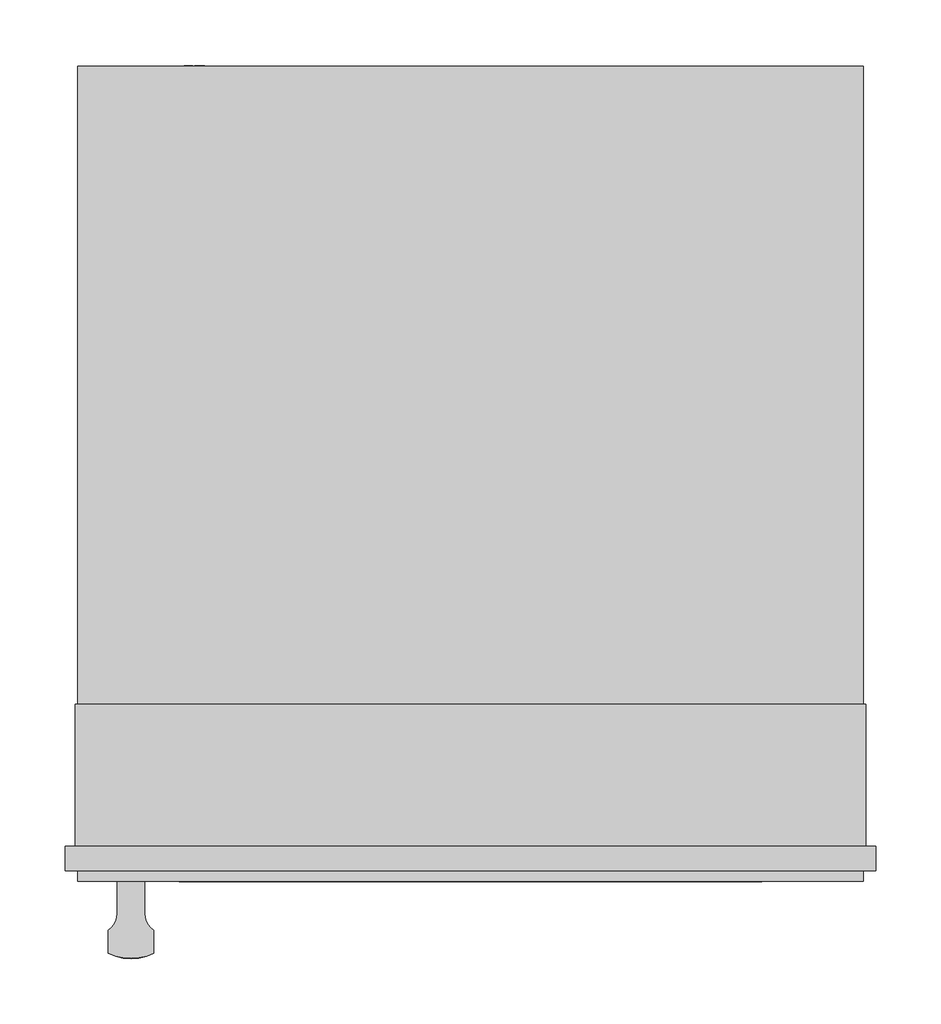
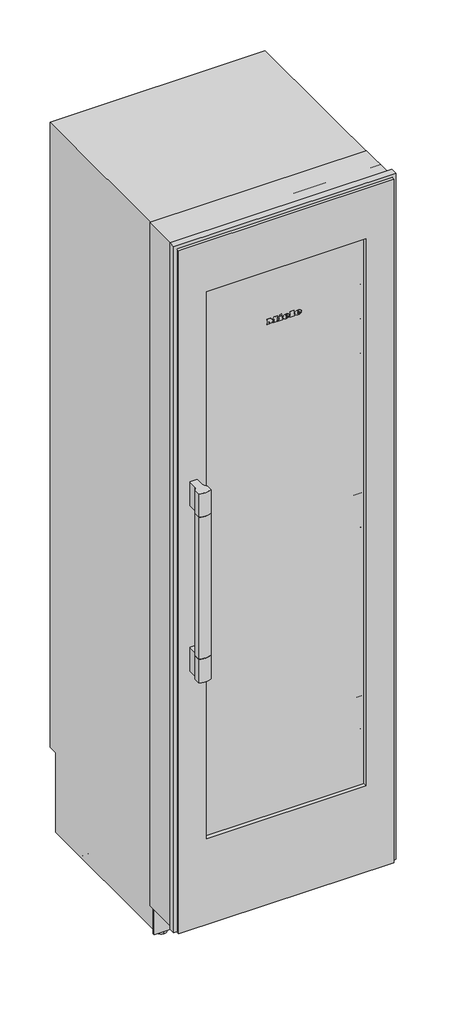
# Not in any storey: 1 proxy.
"""IFC4 building model written with IfcOpenShell, lengths in millimetres."""

from ifc_helpers import new_model, si_unit, origin, place, context, project, spatial, transform, mapped, element, save
from components import specialty_equipment_13b0aeb5, specialty_equipment_7231e5e3, specialty_equipment_dd73f68f, specialty_equipment_70156e45

model = new_model("IFC4")

# Units and contexts
model_context = context("Model", 3, world=origin())
ifc_project = project(units=[si_unit("LENGTHUNIT", "METRE", prefix="MILLI")], contexts=[model_context])

# Site, building
site = spatial("IfcSite", under=ifc_project)
building = spatial("IfcBuilding", under=site)

# Proxy
placement = place(None, origin())
specialty_equipment_shape = specialty_equipment_13b0aeb5(model_context)
specialty_equipment_2_shape = specialty_equipment_7231e5e3(model_context)
specialty_equipment_3_shape = specialty_equipment_dd73f68f(model_context)
specialty_equipment_4_shape = specialty_equipment_70156e45(model_context)
element("IfcBuildingElementProxy", 1, Name="11503620_USA_KWT2602SF : 36260215_USA_11503620_KWT2602SF", ObjectType="11503620_USA_KWT2602SF : 36260215_USA_11503620_KWT2602SF", at=placement, inside=building, context=model_context, shape_type="MappedRepresentation", body=[
    mapped(specialty_equipment_shape, transform((0.0, 0.0, 0.0), x_axis=(1.0, 0.0, 0.0), y_axis=(0.0, 1.0, 0.0), z_axis=(0.0, 0.0, 1.0))),
    mapped(specialty_equipment_2_shape, transform((0.0, 0.0, 0.0), x_axis=(1.0, 0.0, 0.0), y_axis=(0.0, 1.0, 0.0), z_axis=(0.0, 0.0, 1.0))),
    mapped(specialty_equipment_3_shape, transform((0.0, 0.0, 0.0), x_axis=(1.0, 0.0, 0.0), y_axis=(0.0, 1.0, 0.0), z_axis=(0.0, 0.0, 1.0))),
    mapped(specialty_equipment_4_shape, transform((0.0, 0.0, 0.0), x_axis=(1.0, 0.0, 0.0), y_axis=(0.0, 1.0, 0.0), z_axis=(0.0, 0.0, 1.0))),
])

save(model, "model.ifc")
